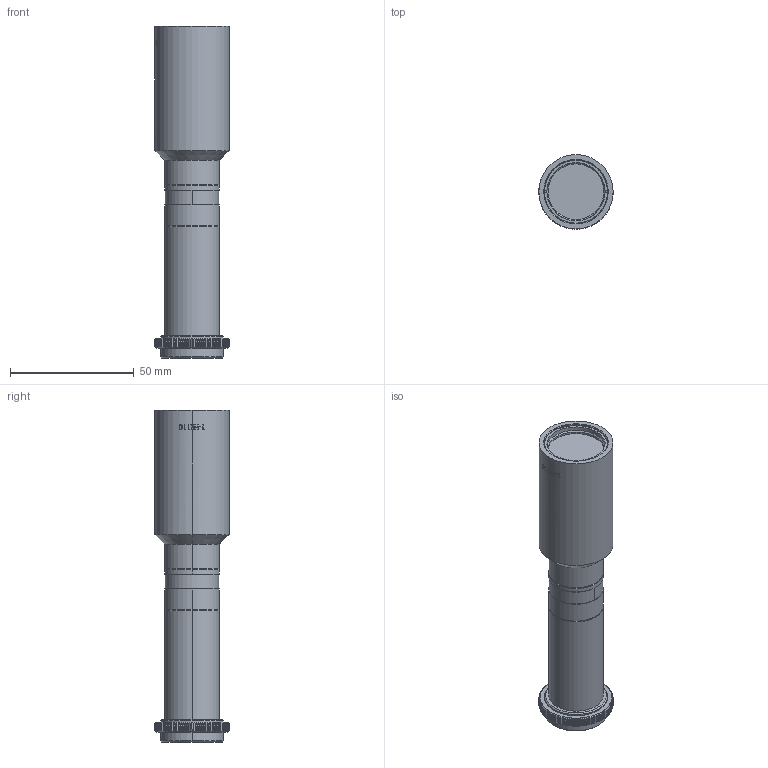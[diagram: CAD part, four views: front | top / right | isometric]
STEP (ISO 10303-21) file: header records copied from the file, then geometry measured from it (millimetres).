
FILE_DESCRIPTION (( 'STEP AP203' ), '1' );
FILE_NAME ('MML1-HR110_A03453A0100101A-001.STEP', '2013-11-22T00:20:50', ( 'SCHOTT' ), ( 'SCHOTT' ), 'SwSTEP 2.0', 'SolidWorks 2011', '' );
FILE_SCHEMA (( 'CONFIG_CONTROL_DESIGN' ));
Length unit declared in the file: millimetre
Products named in the file (1): MML1-HR110_A03453A0100101A-001
Bounding box: 30 x 30 x 134.1 mm (x, y, z)
Volume: 58290.3 mm3; surface area: 15344.7 mm2
Topology: 1 solids, 1 shells, 396 faces, 1096 edges, 718 vertices
Faces by surface type: plane 304, cylinder 41, cone 34, bspline 17
Entity records: 15222 total; most frequent: CARTESIAN_POINT 6033, ORIENTED_EDGE 2192, DIRECTION 1459, EDGE_CURVE 1096, VERTEX_POINT 718, B_SPLINE_CURVE_WITH_KNOTS 545, AXIS2_PLACEMENT_3D 528, EDGE_LOOP 412
